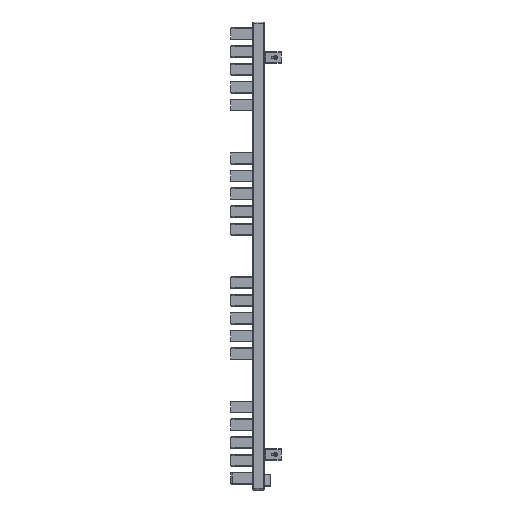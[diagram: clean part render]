
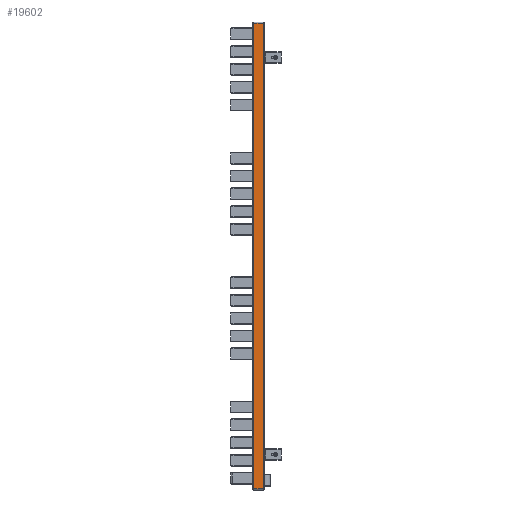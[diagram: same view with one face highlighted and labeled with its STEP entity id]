
A CAD part, left-side view. The second image highlights one B-rep face of the part: STEP entity #19602.
In plain terms, the highlighted planar face has unit normal (-1, 0, 0).
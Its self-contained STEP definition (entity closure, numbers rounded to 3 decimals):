
#19436=CARTESIAN_POINT('',(-300.0,-12.,1182.0));
#19437=VERTEX_POINT('',#19436);
#19446=CARTESIAN_POINT('',(-300.0,12.,1182.0));
#19447=VERTEX_POINT('',#19446);
#19455=CARTESIAN_POINT('',(-300.0,12.,1182.0));
#19456=DIRECTION('',(0.0,-1.0,0.0));
#19457=VECTOR('',#19456,24.);
#19458=LINE('',#19455,#19457);
#19459=EDGE_CURVE('',#19447,#19437,#19458,.T.);
#19560=CARTESIAN_POINT('',(-300.0,-12.,3.0));
#19561=VERTEX_POINT('',#19560);
#19562=CARTESIAN_POINT('',(-300.0,-12.,3.0));
#19563=DIRECTION('',(0.0,0.0,1.0));
#19564=VECTOR('',#19563,1179.0);
#19565=LINE('',#19562,#19564);
#19566=EDGE_CURVE('',#19561,#19437,#19565,.T.);
#19579=CARTESIAN_POINT('',(-300.0,-12.,0.0));
#19580=DIRECTION('',(-1.0,0.0,0.0));
#19581=DIRECTION('',(0.0,0.0,1.0));
#19582=AXIS2_PLACEMENT_3D('',#19579,#19580,#19581);
#19583=PLANE('',#19582);
#19584=ORIENTED_EDGE('',*,*,#19459,.F.);
#19585=CARTESIAN_POINT('',(-300.0,12.,3.0));
#19586=VERTEX_POINT('',#19585);
#19587=CARTESIAN_POINT('',(-300.0,12.,3.0));
#19588=DIRECTION('',(0.0,0.0,1.0));
#19589=VECTOR('',#19588,1179.0);
#19590=LINE('',#19587,#19589);
#19591=EDGE_CURVE('',#19586,#19447,#19590,.T.);
#19592=ORIENTED_EDGE('',*,*,#19591,.F.);
#19593=CARTESIAN_POINT('',(-300.0,-12.,3.0));
#19594=DIRECTION('',(0.0,1.0,0.0));
#19595=VECTOR('',#19594,24.);
#19596=LINE('',#19593,#19595);
#19597=EDGE_CURVE('',#19561,#19586,#19596,.T.);
#19598=ORIENTED_EDGE('',*,*,#19597,.F.);
#19599=ORIENTED_EDGE('',*,*,#19566,.T.);
#19600=EDGE_LOOP('',(#19584,#19592,#19598,#19599));
#19601=FACE_OUTER_BOUND('',#19600,.T.);
#19602=ADVANCED_FACE('',(#19601),#19583,.T.);
